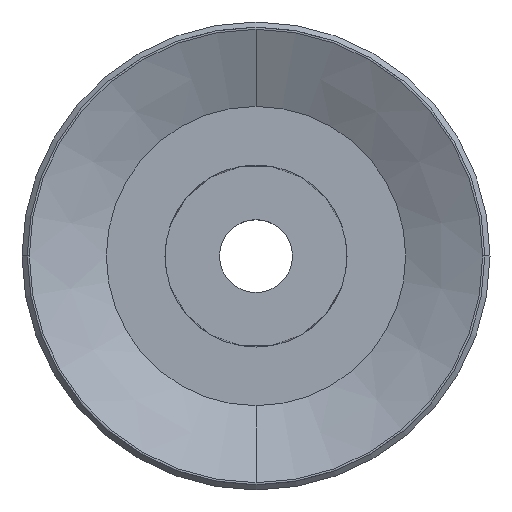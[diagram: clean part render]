
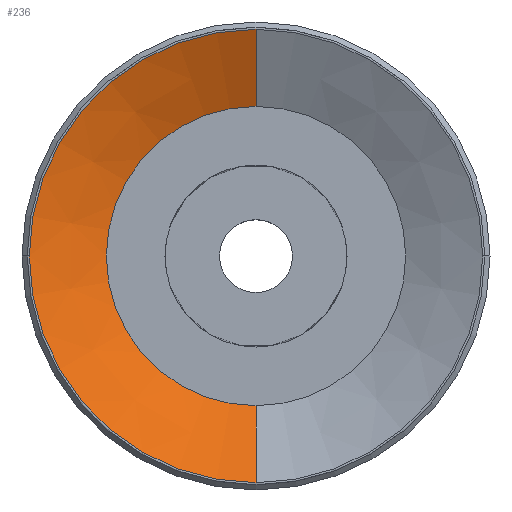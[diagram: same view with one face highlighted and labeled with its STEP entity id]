
A CAD part, top view. The second image highlights one B-rep face of the part: STEP entity #236.
In plain terms, the highlighted conical face has half-angle 64.813 degrees and reference radius 16.45 mm.
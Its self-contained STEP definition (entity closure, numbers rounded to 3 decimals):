
#20 = CIRCLE ( 'NONE', #234, 24.915 ) ;
#34 = CARTESIAN_POINT ( 'NONE',  ( -23.89, -24.915, 5.802 ) ) ;
#45 = ORIENTED_EDGE ( 'NONE', *, *, #550, .T. ) ;
#47 = AXIS2_PLACEMENT_3D ( 'NONE', #274, #519, #499 ) ;
#90 = VERTEX_POINT ( 'NONE', #96 ) ;
#94 = CIRCLE ( 'NONE', #507, 24.915 ) ;
#96 = CARTESIAN_POINT ( 'NONE',  ( -23.89, 24.915, 5.802 ) ) ;
#115 = DIRECTION ( 'NONE',  ( 0., -1., 0. ) ) ;
#121 = FACE_OUTER_BOUND ( 'NONE', #239, .T. ) ;
#123 = DIRECTION ( 'NONE',  ( 0., 0., 1. ) ) ;
#135 = ORIENTED_EDGE ( 'NONE', *, *, #491, .T. ) ;
#165 = VERTEX_POINT ( 'NONE', #348 ) ;
#171 = LINE ( 'NONE', #279, #391 ) ;
#183 = CARTESIAN_POINT ( 'NONE',  ( -23.89, 0., 1.821 ) ) ;
#222 = DIRECTION ( 'NONE',  ( 0., 0., 1. ) ) ;
#234 = AXIS2_PLACEMENT_3D ( 'NONE', #432, #222, #522 ) ;
#236 = ADVANCED_FACE ( 'NONE', ( #121 ), #259, .F. ) ;
#239 = EDGE_LOOP ( 'NONE', ( #135, #335, #45, #301, #551 ) ) ;
#255 = VERTEX_POINT ( 'NONE', #34 ) ;
#258 = DIRECTION ( 'NONE',  ( 0., 0.905, 0.426 ) ) ;
#259 = CONICAL_SURFACE ( 'NONE', #306, 16.45, 1.131 ) ;
#274 = CARTESIAN_POINT ( 'NONE',  ( -23.89, 0., 1.821 ) ) ;
#279 = CARTESIAN_POINT ( 'NONE',  ( -23.89, 16.45, 1.821 ) ) ;
#301 = ORIENTED_EDGE ( 'NONE', *, *, #333, .T. ) ;
#306 = AXIS2_PLACEMENT_3D ( 'NONE', #183, #123, #115 ) ;
#333 = EDGE_CURVE ( 'NONE', #525, #255, #94, .T. ) ;
#335 = ORIENTED_EDGE ( 'NONE', *, *, #579, .T. ) ;
#348 = CARTESIAN_POINT ( 'NONE',  ( -23.89, -16.45, 1.821 ) ) ;
#363 = VERTEX_POINT ( 'NONE', #575 ) ;
#391 = VECTOR ( 'NONE', #258, 1000. ) ;
#397 = EDGE_CURVE ( 'NONE', #165, #255, #443, .T. ) ;
#432 = CARTESIAN_POINT ( 'NONE',  ( -23.89, 0., 5.802 ) ) ;
#441 = CIRCLE ( 'NONE', #47, 16.45 ) ;
#443 = LINE ( 'NONE', #529, #543 ) ;
#491 = EDGE_CURVE ( 'NONE', #165, #363, #441, .T. ) ;
#499 = DIRECTION ( 'NONE',  ( 0., -1., 0. ) ) ;
#507 = AXIS2_PLACEMENT_3D ( 'NONE', #591, #534, #523 ) ;
#519 = DIRECTION ( 'NONE',  ( 0., 0., -1. ) ) ;
#522 = DIRECTION ( 'NONE',  ( 1., 0., 0. ) ) ;
#523 = DIRECTION ( 'NONE',  ( 1., 0., 0. ) ) ;
#525 = VERTEX_POINT ( 'NONE', #533 ) ;
#529 = CARTESIAN_POINT ( 'NONE',  ( -23.89, -16.45, 1.821 ) ) ;
#533 = CARTESIAN_POINT ( 'NONE',  ( -48.805, 0., 5.802 ) ) ;
#534 = DIRECTION ( 'NONE',  ( 0., 0., 1. ) ) ;
#537 = DIRECTION ( 'NONE',  ( 0., -0.905, 0.426 ) ) ;
#543 = VECTOR ( 'NONE', #537, 1000. ) ;
#550 = EDGE_CURVE ( 'NONE', #90, #525, #20, .T. ) ;
#551 = ORIENTED_EDGE ( 'NONE', *, *, #397, .F. ) ;
#575 = CARTESIAN_POINT ( 'NONE',  ( -23.89, 16.45, 1.821 ) ) ;
#579 = EDGE_CURVE ( 'NONE', #363, #90, #171, .T. ) ;
#591 = CARTESIAN_POINT ( 'NONE',  ( -23.89, 0., 5.802 ) ) ;
